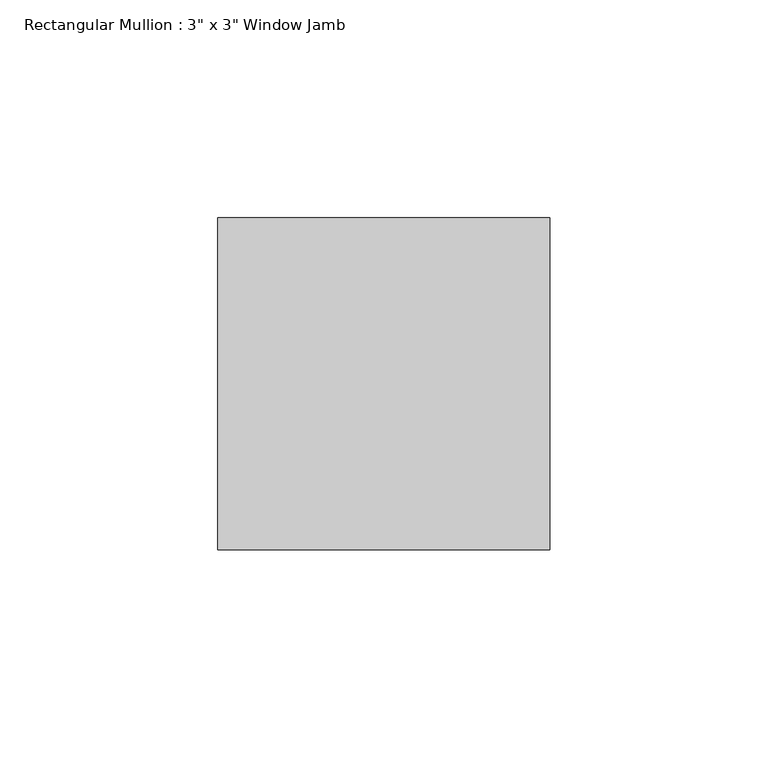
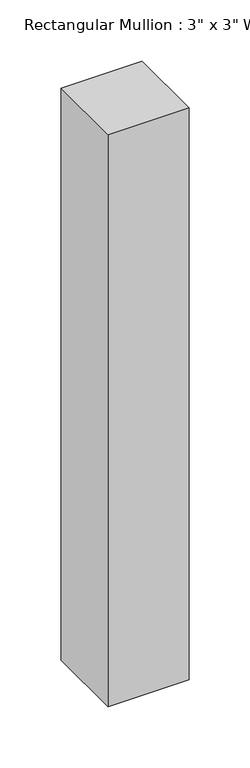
"""IFC4 building model written with IfcOpenShell, lengths in millimetres: member geometry."""

import ifcopenshell
import ifcopenshell.guid

model = None  # the IFC model being written
_history = None  # IfcOwnerHistory: only IFC2X3 demands one
_inside = {}  # id of a spatial element -> (the spatial element, [elements in it])
_under = {}  # id of a project, library or spatial element -> (it, [spatial elements below it])
_declared = {}  # id of a project -> (the project, [libraries it declares])
_typed = {}  # id of a type object -> (the type object, [elements of that type])
_made_of = {}  # id of a material, layer set ... -> (it, [elements and type objects made of it])


def new_model(schema):
    """Start an empty IFC model of exactly this schema.

    Asked for "IFC4X3", IfcOpenShell would pick the latest addendum, in which some entities
    have other attributes; the version numbers below select the first issue.
    IFC2X3 requires an IfcOwnerHistory on every rooted entity: one is made here for all.
    """
    global model, _history
    if schema == "IFC4X3":
        model = ifcopenshell.file(schema_version=(4, 3, 0, 0))
    else:
        model = ifcopenshell.file(schema=schema)
    _inside.clear()
    _under.clear()
    _declared.clear()
    _typed.clear()
    _made_of.clear()
    _history = None
    if model.schema == "IFC2X3":
        org = make("IfcOrganization", Name="unknown")
        user = make(
            "IfcPersonAndOrganization",
            ThePerson=make("IfcPerson", FamilyName="unknown"),
            TheOrganization=org,
        )
        app = make(
            "IfcApplication",
            ApplicationDeveloper=org,
            Version="unknown",
            ApplicationFullName="unknown",
            ApplicationIdentifier="unknown",
        )
        _history = make(
            "IfcOwnerHistory",
            OwningUser=user,
            OwningApplication=app,
            ChangeAction="ADDED",
            CreationDate=0,
        )
    return model


def make(cls, **values):
    """One entity of the class cls with the attributes given. An attribute that is None is left unset."""
    return model.create_entity(
        cls, **{name: value for name, value in values.items() if value is not None}
    )


def rooted(cls, **values):
    """An entity with a GlobalId (a new one), such as an element, a storey or a relation."""
    return make(cls, GlobalId=ifcopenshell.guid.new(), OwnerHistory=_history, **values)


def si_unit(unit_type, name, prefix=None):
    """IfcSIUnit, for example si_unit("LENGTHUNIT", "METRE", prefix="MILLI")."""
    return make("IfcSIUnit", UnitType=unit_type, Prefix=prefix, Name=name)


def assignment(units):
    """IfcUnitAssignment: the units of a project."""
    return None if units is None else make("IfcUnitAssignment", Units=units)


def point(xyz):
    """IfcCartesianPoint."""
    return None if xyz is None else make("IfcCartesianPoint", Coordinates=xyz)


def direction(xyz):
    """IfcDirection."""
    return None if xyz is None else make("IfcDirection", DirectionRatios=xyz)


def frame(location, z_axis=None, x_axis=None):
    """IfcAxis2Placement3D, a coordinate frame: its origin and axes. An axis left out is left unset."""
    return make(
        "IfcAxis2Placement3D",
        Location=point(location),
        Axis=direction(z_axis),
        RefDirection=direction(x_axis),
    )


def origin():
    """The frame at (0, 0, 0) with its axes left unset."""
    return frame((0.0, 0.0, 0.0))


def place(relative_to, where):
    """IfcLocalPlacement: puts the frame where relative to a parent placement (None: the world)."""
    return make(
        "IfcLocalPlacement", PlacementRelTo=relative_to, RelativePlacement=where
    )


def context(
    kind, dimensions, precision=None, world=None, true_north=None, identifier=None
):
    """IfcGeometricRepresentationContext, for example the 3D "Model" context."""
    return make(
        "IfcGeometricRepresentationContext",
        ContextIdentifier=identifier,
        ContextType=kind,
        CoordinateSpaceDimension=dimensions,
        Precision=precision,
        WorldCoordinateSystem=world,
        TrueNorth=true_north,
    )


def project(units=None, contexts=None):
    """IfcProject with its units and contexts."""
    return rooted(
        "IfcProject",
        Name="project",
        RepresentationContexts=contexts,
        UnitsInContext=assignment(units),
    )


def spatial(cls, under=None, at=None, **own):
    """A site, building, storey or space (cls), placed at a placement, below another one or the project."""
    s = rooted(cls, ObjectPlacement=at, **own)
    if under is not None:
        _under.setdefault(under.id(), (under, []))[1].append(s)
    return s


def polyline(points):
    """IfcPolyline through the points."""
    return make("IfcPolyline", Points=[point(p) for p in points])


def outline(outer, holes=None, kind="AREA"):
    """IfcArbitraryClosedProfileDef: a profile drawn as a closed curve; with holes, ...WithVoids."""
    if holes is None:
        return make("IfcArbitraryClosedProfileDef", ProfileType=kind, OuterCurve=outer)
    return make(
        "IfcArbitraryProfileDefWithVoids",
        ProfileType=kind,
        OuterCurve=outer,
        InnerCurves=holes,
    )


def extrude(swept, where, along, depth):
    """IfcExtrudedAreaSolid: the profile swept, set in the frame where, extruded along a direction by depth."""
    return make(
        "IfcExtrudedAreaSolid",
        SweptArea=swept,
        Position=where,
        ExtrudedDirection=direction(along),
        Depth=depth,
    )


def shape(context_of_items, identifier, shape_type, items):
    """IfcShapeRepresentation: the items that make up one representation, for example the "Body"."""
    return make(
        "IfcShapeRepresentation",
        ContextOfItems=context_of_items,
        RepresentationIdentifier=identifier,
        RepresentationType=shape_type,
        Items=items,
    )


def source(mapping_origin, context_of_items, identifier, shape_type, items):
    """IfcRepresentationMap: a shape defined once, which mapped items show again and again."""
    return make(
        "IfcRepresentationMap",
        MappingOrigin=mapping_origin,
        MappedRepresentation=shape(context_of_items, identifier, shape_type, items),
    )


def transform(
    local_origin,
    x_axis=None,
    y_axis=None,
    z_axis=None,
    scale=None,
    scale2=None,
    scale3=None,
    uniform=True,
):
    """IfcCartesianTransformationOperator3D, or its non-uniform kind. x_axis, y_axis, z_axis: its Axis1, 2, 3."""
    if uniform:
        return make(
            "IfcCartesianTransformationOperator3D",
            Axis1=direction(x_axis),
            Axis2=direction(y_axis),
            LocalOrigin=point(local_origin),
            Scale=scale,
            Axis3=direction(z_axis),
        )
    return make(
        "IfcCartesianTransformationOperator3DnonUniform",
        Axis1=direction(x_axis),
        Axis2=direction(y_axis),
        LocalOrigin=point(local_origin),
        Scale=scale,
        Axis3=direction(z_axis),
        Scale2=scale2,
        Scale3=scale3,
    )


def mapped(mapping_source, mapping_target):
    """IfcMappedItem: shows the shape of a source again, moved by a transform."""
    return make(
        "IfcMappedItem", MappingSource=mapping_source, MappingTarget=mapping_target
    )


def made_of(thing, what):
    """Note that an element or type object is made of a material, layer set ...; save() writes the relation."""
    if what is not None:
        _made_of.setdefault(what.id(), (what, []))[1].append(thing)
    return thing


def element(
    cls,
    number,
    at=None,
    inside=None,
    cuts=None,
    type_object=None,
    material=None,
    context=None,
    identifier="Body",
    shape_type=None,
    held_by="IfcProductDefinitionShape",
    body=None,
    shapes=None,
    **own,
):
    """One element of the class cls, such as IfcWall. Its Tag is "e" and its number.

    at: its placement. inside: the storey or other place that contains it. cuts: it is an
    opening in that element (IfcRelVoidsElement). A single representation is given by context,
    identifier, shape_type and body (its items); several are given by shapes. held_by: the class
    of the entity that holds the representations. save() writes the other relations.
    """
    e = rooted(cls, Tag="e%d" % number, ObjectPlacement=at, **own)
    if body is not None:
        shapes = [shape(context, identifier, shape_type, body)]
    if shapes is not None:
        e.Representation = make(held_by, Representations=shapes)
    if inside is not None:
        _inside.setdefault(inside.id(), (inside, []))[1].append(e)
    if cuts is not None:
        rooted(
            "IfcRelVoidsElement", RelatingBuildingElement=cuts, RelatedOpeningElement=e
        )
    if type_object is not None:
        _typed.setdefault(type_object.id(), (type_object, []))[1].append(e)
    return made_of(e, material)


def aggregate(whole, parts):
    """IfcRelAggregates: a whole, such as a stair, and the parts it consists of."""
    return rooted("IfcRelAggregates", RelatingObject=whole, RelatedObjects=parts)


def save(model, path):
    """Write the relations noted so far, then the file.

    IfcRelAggregates (storeys below a building ...), IfcRelContainedInSpatialStructure (elements
    in a storey), IfcRelDefinesByType, IfcRelAssociatesMaterial and IfcRelDeclares: one each for
    every whole, place, type object, material and project.
    """
    for whole, parts in _under.values():
        aggregate(whole, parts)
    for where, things in _inside.values():
        rooted(
            "IfcRelContainedInSpatialStructure",
            RelatedElements=things,
            RelatingStructure=where,
        )
    for kind, things in _typed.values():
        rooted("IfcRelDefinesByType", RelatedObjects=things, RelatingType=kind)
    for what, things in _made_of.values():
        rooted("IfcRelAssociatesMaterial", RelatedObjects=things, RelatingMaterial=what)
    for by, libraries in _declared.values():
        rooted("IfcRelDeclares", RelatingContext=by, RelatedDefinitions=libraries)
    model.write(path)


def member_c617cc80(model_context):
    return source(origin(), model_context, "Body", "SweptSolid", [
        extrude(outline(polyline([(0.0, 50.8), (0.0, -25.4), (-76.2, -25.4), (-76.2, 50.8), (0.0, 50.8)])), frame((0.0, 0.0, -569.3956956), z_axis=(0.0, 0.0, 1.0), x_axis=(1.0, 0.0, 0.0)), (0.0, 0.0, 1.0), 569.3956956),
    ])


if __name__ == "__main__":
    model = new_model("IFC4")
    model_context = context("Model", 3, world=origin())
    ifc_project = project(units=[si_unit("LENGTHUNIT", "METRE", prefix="MILLI")], contexts=[model_context])
    site = spatial("IfcSite", under=ifc_project)
    building = spatial("IfcBuilding", under=site)
    placement = place(None, origin())
    member_shape = member_c617cc80(model_context)
    element("IfcMember", 1, ObjectType="Rectangular Mullion : 3\" x 3\" Window Jamb", at=placement, inside=building, context=model_context, shape_type="MappedRepresentation", body=[
        mapped(member_shape, transform((0.0, 0.0, 0.0), x_axis=(1.0, 0.0, 0.0), y_axis=(0.0, 1.0, 0.0), z_axis=(0.0, 0.0, 1.0))),
    ])
    save(model, "model.ifc")
